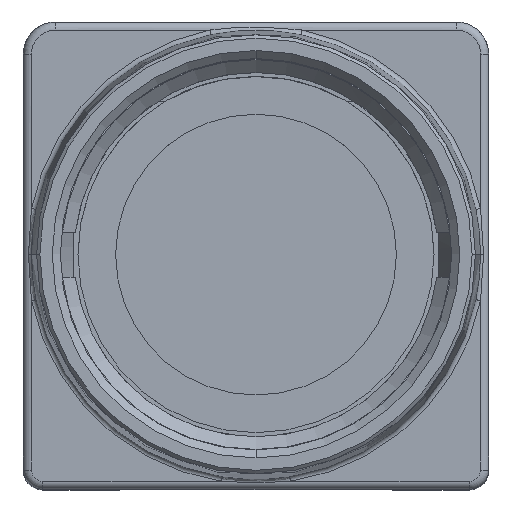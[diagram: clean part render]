
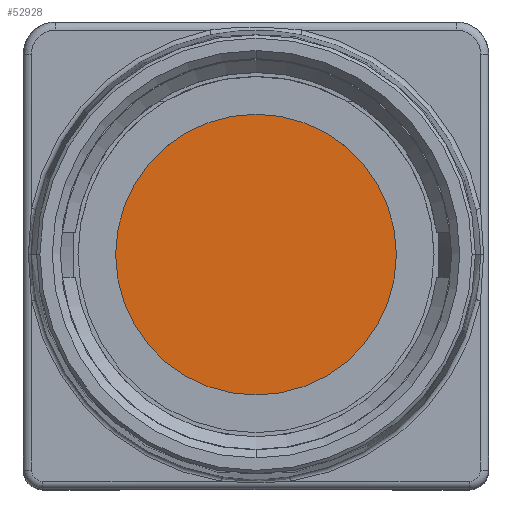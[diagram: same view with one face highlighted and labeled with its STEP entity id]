
A CAD part, top view. The second image highlights one B-rep face of the part: STEP entity #52928.
In plain terms, the highlighted planar face has unit normal (0, 0, 1).
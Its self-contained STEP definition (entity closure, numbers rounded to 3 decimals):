
#13058=CARTESIAN_POINT('',(0.,0.,-1.8));
#13059=DIRECTION('',(0.,0.,1.));
#13060=DIRECTION('',(-1.,0.,0.));
#13061=AXIS2_PLACEMENT_3D('',#13058,#13059,#13060);
#13066=CARTESIAN_POINT('',(0.,0.,-1.8));
#13067=DIRECTION('',(0.,0.,1.));
#13068=DIRECTION('',(1.,0.,0.));
#13069=AXIS2_PLACEMENT_3D('',#13066,#13067,#13068);
#35816=CARTESIAN_POINT('',(-8.75,0.,-1.8));
#35817=CARTESIAN_POINT('',(8.75,0.,-1.8));
#35818=VERTEX_POINT('',#35816);
#35819=VERTEX_POINT('',#35817);
#52917=CARTESIAN_POINT('',(0.,0.,-1.8));
#52918=DIRECTION('',(0.,0.,-1.));
#52919=DIRECTION('',(-1.,0.,0.));
#52920=AXIS2_PLACEMENT_3D('',#52917,#52918,#52919);
#52921=PLANE('',#52920);
#52923=ORIENTED_EDGE('',*,*,#52922,.F.);
#52925=ORIENTED_EDGE('',*,*,#52924,.F.);
#52926=EDGE_LOOP('',(#52923,#52925));
#52927=FACE_OUTER_BOUND('',#52926,.F.);
#52928=ADVANCED_FACE('',(#52927),#52921,.F.);
#13062=CIRCLE('',#13061,8.75);
#13070=CIRCLE('',#13069,8.75);
#52922=EDGE_CURVE('',#35818,#35819,#13062,.T.);
#52924=EDGE_CURVE('',#35819,#35818,#13070,.T.);
